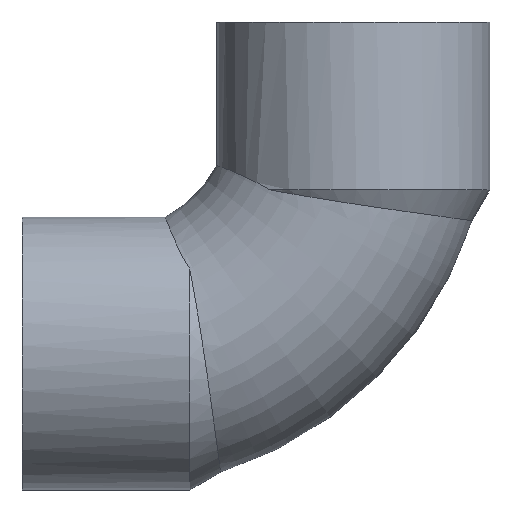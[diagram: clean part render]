
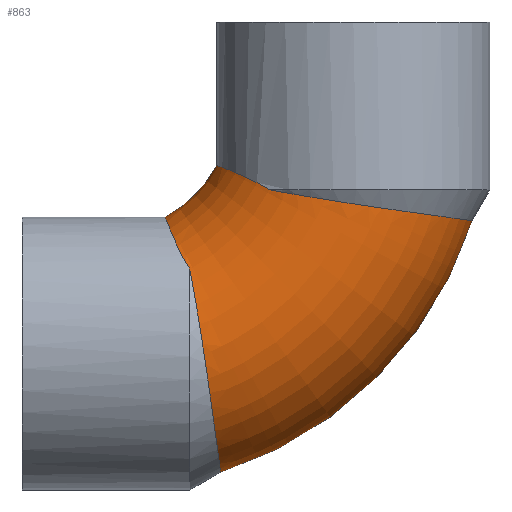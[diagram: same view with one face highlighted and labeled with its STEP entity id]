
A CAD part, top view. The second image highlights one B-rep face of the part: STEP entity #863.
In plain terms, the highlighted toroidal (fillet/blend) face has major radius 42 mm and minor radius 21 mm.
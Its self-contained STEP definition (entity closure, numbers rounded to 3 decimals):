
#161=CARTESIAN_POINT('',(19.064,-60.046,0.));
#162=VERTEX_POINT('',#161);
#163=CARTESIAN_POINT('',(60.046,-19.064,0.));
#164=VERTEX_POINT('',#163);
#165=CARTESIAN_POINT('',(0.0,0.0,0.));
#166=DIRECTION('',(0.0,0.0,1.0));
#167=DIRECTION('',(1.0,0.0,0.0));
#168=AXIS2_PLACEMENT_3D('',#165,#166,#167);
#169=CIRCLE('',#168,63.0);
#170=EDGE_CURVE('',#162,#164,#169,.T.);
#191=CARTESIAN_POINT('',(10.03,-18.45,0.));
#192=VERTEX_POINT('',#191);
#208=CARTESIAN_POINT('',(18.45,-10.03,0.));
#209=VERTEX_POINT('',#208);
#210=CARTESIAN_POINT('',(0.0,0.0,0.));
#211=DIRECTION('',(0.0,0.0,-1.0));
#212=DIRECTION('',(1.0,0.0,0.0));
#213=AXIS2_PLACEMENT_3D('',#210,#211,#212);
#214=CIRCLE('',#213,21.0);
#215=EDGE_CURVE('',#209,#192,#214,.T.);
#325=CARTESIAN_POINT('',(14.035,-26.965,17.505));
#326=VERTEX_POINT('',#325);
#327=CARTESIAN_POINT('',(14.035,-26.965,17.505));
#328=CARTESIAN_POINT('',(14.291,-28.318,18.378));
#329=CARTESIAN_POINT('',(14.553,-29.764,19.1));
#330=CARTESIAN_POINT('',(15.107,-32.938,20.268));
#331=CARTESIAN_POINT('',(15.396,-34.672,20.676));
#332=CARTESIAN_POINT('',(16.088,-38.992,21.151));
#333=CARTESIAN_POINT('',(16.481,-41.582,20.977));
#334=CARTESIAN_POINT('',(17.207,-46.559,19.725));
#335=CARTESIAN_POINT('',(17.536,-48.909,18.664));
#336=CARTESIAN_POINT('',(18.119,-53.134,15.738));
#337=CARTESIAN_POINT('',(18.369,-54.97,13.894));
#338=CARTESIAN_POINT('',(18.769,-57.908,9.577));
#339=CARTESIAN_POINT('',(18.915,-58.967,7.136));
#340=CARTESIAN_POINT('',(19.041,-59.878,3.058));
#341=CARTESIAN_POINT('',(19.064,-60.046,1.53));
#342=CARTESIAN_POINT('',(19.064,-60.046,0.));
#343=B_SPLINE_CURVE_WITH_KNOTS('',3,(#327,#328,#329,#330,#331,#332,#333,#334,#335,#336,#337,#338,#339,#340,#341,#342),.UNSPECIFIED.,.F.,.U.,(4,2,2,2,2,2,2,4),(-9.236,-8.747,-8.208,-7.427,-6.653,-5.875,-5.081,-4.619),.UNSPECIFIED.);
#344=EDGE_CURVE('',#326,#162,#343,.T.);
#370=CARTESIAN_POINT('',(10.03,-18.45,0.));
#371=CARTESIAN_POINT('',(10.03,-18.45,1.536));
#372=CARTESIAN_POINT('',(10.09,-18.609,3.07));
#373=CARTESIAN_POINT('',(10.422,-19.474,7.189));
#374=CARTESIAN_POINT('',(10.809,-20.491,9.667));
#375=CARTESIAN_POINT('',(11.808,-22.804,13.334));
#376=CARTESIAN_POINT('',(12.297,-23.883,14.662));
#377=CARTESIAN_POINT('',(13.251,-25.674,16.433));
#378=CARTESIAN_POINT('',(13.617,-26.316,16.995));
#379=CARTESIAN_POINT('',(14.035,-26.965,17.505));
#380=B_SPLINE_CURVE_WITH_KNOTS('',3,(#370,#371,#372,#373,#374,#375,#376,#377,#378,#379),.UNSPECIFIED.,.F.,.U.,(4,2,2,2,4),(-2.06,-1.602,-0.806,-0.278,0.0),.UNSPECIFIED.);
#381=EDGE_CURVE('',#192,#326,#380,.T.);
#721=CARTESIAN_POINT('',(26.965,-14.035,17.505));
#722=VERTEX_POINT('',#721);
#723=CARTESIAN_POINT('',(26.965,-14.035,17.505));
#724=CARTESIAN_POINT('',(26.814,-13.938,17.387));
#725=CARTESIAN_POINT('',(26.664,-13.844,17.265));
#726=CARTESIAN_POINT('',(25.837,-13.338,16.581));
#727=CARTESIAN_POINT('',(25.173,-12.976,15.963));
#728=CARTESIAN_POINT('',(22.853,-11.79,13.512));
#729=CARTESIAN_POINT('',(21.295,-11.149,11.266));
#730=CARTESIAN_POINT('',(19.338,-10.365,6.589));
#731=CARTESIAN_POINT('',(18.792,-10.16,4.461));
#732=CARTESIAN_POINT('',(18.489,-10.045,1.521));
#733=CARTESIAN_POINT('',(18.45,-10.03,0.76));
#734=CARTESIAN_POINT('',(18.45,-10.03,0.));
#735=B_SPLINE_CURVE_WITH_KNOTS('',3,(#723,#724,#725,#726,#727,#728,#729,#730,#731,#732,#733,#734),.UNSPECIFIED.,.F.,.U.,(4,2,2,2,2,4),(-4.209,-4.137,-3.81,-2.938,-2.286,-2.06),.UNSPECIFIED.);
#736=EDGE_CURVE('',#722,#209,#735,.T.);
#776=CARTESIAN_POINT('',(60.046,-19.064,0.));
#777=CARTESIAN_POINT('',(60.046,-19.064,1.167));
#778=CARTESIAN_POINT('',(59.948,-19.051,2.335));
#779=CARTESIAN_POINT('',(59.293,-18.96,6.203));
#780=CARTESIAN_POINT('',(58.303,-18.823,8.794));
#781=CARTESIAN_POINT('',(55.366,-18.422,13.467));
#782=CARTESIAN_POINT('',(53.44,-18.161,15.493));
#783=CARTESIAN_POINT('',(48.881,-17.532,18.715));
#784=CARTESIAN_POINT('',(46.284,-17.169,19.861));
#785=CARTESIAN_POINT('',(40.746,-16.356,21.104));
#786=CARTESIAN_POINT('',(37.852,-15.913,21.166));
#787=CARTESIAN_POINT('',(32.161,-14.981,20.164));
#788=CARTESIAN_POINT('',(29.415,-14.498,19.087));
#789=CARTESIAN_POINT('',(26.965,-14.035,17.505));
#790=B_SPLINE_CURVE_WITH_KNOTS('',3,(#776,#777,#778,#779,#780,#781,#782,#783,#784,#785,#786,#787,#788,#789),.UNSPECIFIED.,.F.,.U.,(4,2,2,2,2,2,4),(-4.619,-4.267,-3.441,-2.606,-1.755,-0.886,0.0),.UNSPECIFIED.);
#791=EDGE_CURVE('',#164,#722,#790,.T.);
#850=CARTESIAN_POINT('',(0.0,0.0,0.0));
#851=DIRECTION('',(0.0,0.0,1.0));
#852=DIRECTION('',(1.0,0.0,0.0));
#853=AXIS2_PLACEMENT_3D('',#850,#851,#852);
#854=TOROIDAL_SURFACE('',#853,42.0,21.0);
#855=ORIENTED_EDGE('',*,*,#170,.T.);
#856=ORIENTED_EDGE('',*,*,#791,.T.);
#857=ORIENTED_EDGE('',*,*,#736,.T.);
#858=ORIENTED_EDGE('',*,*,#215,.T.);
#859=ORIENTED_EDGE('',*,*,#381,.T.);
#860=ORIENTED_EDGE('',*,*,#344,.T.);
#861=EDGE_LOOP('',(#855,#856,#857,#858,#859,#860));
#862=FACE_OUTER_BOUND('',#861,.T.);
#863=ADVANCED_FACE('',(#862),#854,.T.);
